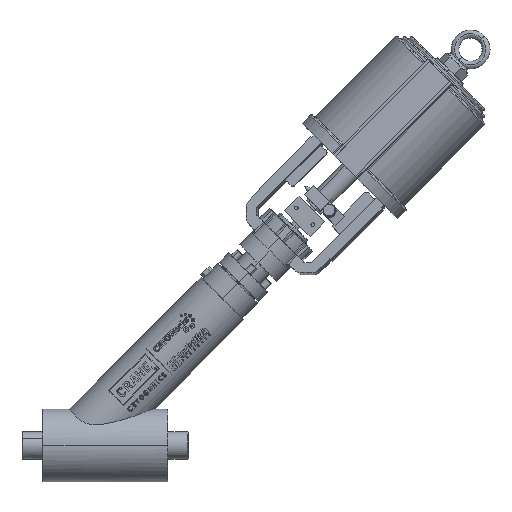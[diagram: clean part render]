
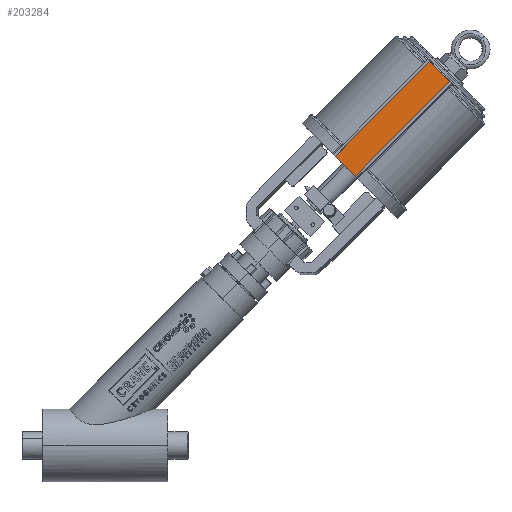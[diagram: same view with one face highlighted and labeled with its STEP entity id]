
A CAD part, top view. The second image highlights one B-rep face of the part: STEP entity #203284.
In plain terms, the highlighted planar face has unit normal (-0.071, 0.071, 0.995).
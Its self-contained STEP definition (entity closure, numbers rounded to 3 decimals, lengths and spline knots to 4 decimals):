
#19137 = VERTEX_POINT ( 'NONE', #44833 ) ;
#24735 = CARTESIAN_POINT ( 'NONE',  ( 16.4885, 15.98, 3.2419 ) ) ;
#26813 = CARTESIAN_POINT ( 'NONE',  ( 17.6852, 17.8192, 3.1958 ) ) ;
#27612 = ORIENTED_EDGE ( 'NONE', *, *, #199683, .T. ) ;
#40762 = CARTESIAN_POINT ( 'NONE',  ( 18.0065, 17.4979, 3.2419 ) ) ;
#43771 = DIRECTION ( 'NONE',  ( -0.071, 0.071, 0.995 ) ) ;
#44833 = CARTESIAN_POINT ( 'NONE',  ( 13.4527, 12.9441, 3.2419 ) ) ;
#47119 = B_SPLINE_CURVE_WITH_KNOTS ( 'NONE', 3,
 ( #214115, #142127, #233663, #236627 ),
 .UNSPECIFIED., .F., .F.,
 ( 4, 4 ),
 ( 0., 1. ),
 .UNSPECIFIED. ) ;
#49196 = CARTESIAN_POINT ( 'NONE',  ( 12.4889, 13.9079, 3.1036 ) ) ;
#53591 = EDGE_CURVE ( 'NONE', #218286, #226958, #297084, .T. ) ;
#66483 = EDGE_LOOP ( 'NONE', ( #219072, #163852, #27612, #76473 ) ) ;
#71241 = CARTESIAN_POINT ( 'NONE',  ( 14.9706, 14.4621, 3.2419 ) ) ;
#76473 = ORIENTED_EDGE ( 'NONE', *, *, #120205, .F. ) ;
#94205 = CARTESIAN_POINT ( 'NONE',  ( 15.5248, 16.9438, 3.1036 ) ) ;
#116469 = EDGE_CURVE ( 'NONE', #19137, #218286, #151207, .T. ) ;
#119642 = CARTESIAN_POINT ( 'NONE',  ( 17.0427, 18.4617, 3.1036 ) ) ;
#120205 = EDGE_CURVE ( 'NONE', #19137, #189699, #47119, .T. ) ;
#123833 = CARTESIAN_POINT ( 'NONE',  ( 17.3639, 18.1404, 3.1497 ) ) ;
#130823 = FACE_OUTER_BOUND ( 'NONE', #66483, .T. ) ;
#140182 = CARTESIAN_POINT ( 'NONE',  ( 13.4527, 12.9441, 3.2419 ) ) ;
#142127 = CARTESIAN_POINT ( 'NONE',  ( 13.1314, 13.2654, 3.1958 ) ) ;
#142161 = CARTESIAN_POINT ( 'NONE',  ( 14.0068, 15.4259, 3.1036 ) ) ;
#143740 = PLANE ( 'NONE',  #221186 ) ;
#151207 = B_SPLINE_CURVE_WITH_KNOTS ( 'NONE', 3,
 ( #140182, #71241, #24735, #276763 ),
 .UNSPECIFIED., .F., .F.,
 ( 4, 4 ),
 ( 0., 1. ),
 .UNSPECIFIED. ) ;
#163344 = CARTESIAN_POINT ( 'NONE',  ( 17.0427, 18.4617, 3.1036 ) ) ;
#163852 = ORIENTED_EDGE ( 'NONE', *, *, #53591, .T. ) ;
#180307 = DIRECTION ( 'NONE',  ( 0.707, 0.707, 0. ) ) ;
#189699 = VERTEX_POINT ( 'NONE', #288891 ) ;
#199683 = EDGE_CURVE ( 'NONE', #226958, #189699, #274047, .T. ) ;
#203284 = ADVANCED_FACE ( 'NONE', ( #130823 ), #143740, .T. ) ;
#208327 = CARTESIAN_POINT ( 'NONE',  ( 18.0065, 17.4979, 3.2419 ) ) ;
#214115 = CARTESIAN_POINT ( 'NONE',  ( 13.4527, 12.9441, 3.2419 ) ) ;
#218286 = VERTEX_POINT ( 'NONE', #40762 ) ;
#219072 = ORIENTED_EDGE ( 'NONE', *, *, #116469, .T. ) ;
#221186 = AXIS2_PLACEMENT_3D ( 'NONE', #249305, #43771, #180307 ) ;
#226958 = VERTEX_POINT ( 'NONE', #283336 ) ;
#233663 = CARTESIAN_POINT ( 'NONE',  ( 12.8102, 13.5867, 3.1497 ) ) ;
#236627 = CARTESIAN_POINT ( 'NONE',  ( 12.4889, 13.9079, 3.1036 ) ) ;
#249305 = CARTESIAN_POINT ( 'NONE',  ( 15.2477, 15.7029, 3.1727 ) ) ;
#274047 = B_SPLINE_CURVE_WITH_KNOTS ( 'NONE', 3,
 ( #119642, #94205, #142161, #49196 ),
 .UNSPECIFIED., .F., .F.,
 ( 4, 4 ),
 ( 0., 1. ),
 .UNSPECIFIED. ) ;
#276763 = CARTESIAN_POINT ( 'NONE',  ( 18.0065, 17.4979, 3.2419 ) ) ;
#283336 = CARTESIAN_POINT ( 'NONE',  ( 17.0427, 18.4617, 3.1036 ) ) ;
#288891 = CARTESIAN_POINT ( 'NONE',  ( 12.4889, 13.9079, 3.1036 ) ) ;
#297084 = B_SPLINE_CURVE_WITH_KNOTS ( 'NONE', 3,
 ( #208327, #26813, #123833, #163344 ),
 .UNSPECIFIED., .F., .F.,
 ( 4, 4 ),
 ( 0., 1. ),
 .UNSPECIFIED. ) ;
